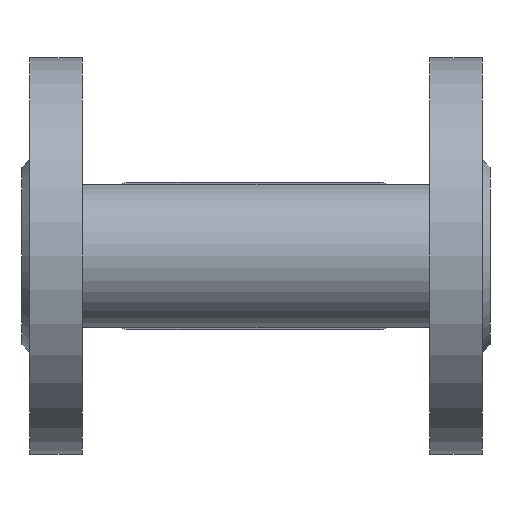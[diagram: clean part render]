
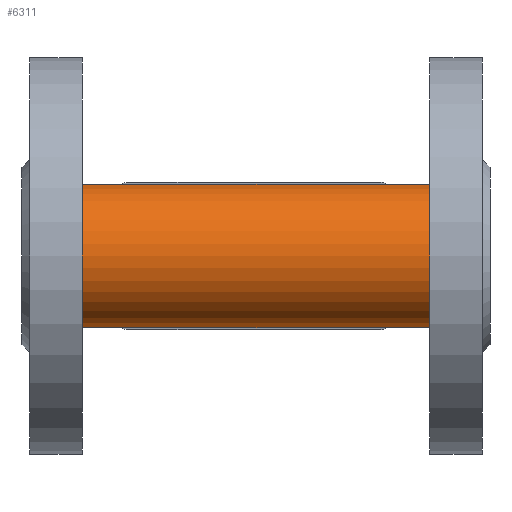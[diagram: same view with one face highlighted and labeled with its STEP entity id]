
A CAD part, front view. The second image highlights one B-rep face of the part: STEP entity #6311.
In plain terms, the highlighted cylindrical face has radius 19 mm (diameter 38 mm), a full revolution.
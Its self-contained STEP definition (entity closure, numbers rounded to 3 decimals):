
#1928=ELLIPSE('',#30327,26.87,19.);
#1929=ELLIPSE('',#30328,26.87,19.);
#1930=ELLIPSE('',#30329,26.87,19.);
#1931=ELLIPSE('',#30330,26.87,19.);
#2276=CYLINDRICAL_SURFACE('',#30333,19.);
#3582=FACE_BOUND('',#10591,.T.);
#3583=FACE_BOUND('',#10592,.T.);
#3584=FACE_BOUND('',#10593,.T.);
#4616=CIRCLE('',#30331,19.);
#4617=CIRCLE('',#30332,19.);
#6311=ADVANCED_FACE('',(#3582,#3583,#3584),#2276,.T.);
#10591=EDGE_LOOP('',(#17813,#17814,#17815,#17816,#17817,#17818));
#10592=EDGE_LOOP('',(#17819));
#10593=EDGE_LOOP('',(#17820));
#17813=ORIENTED_EDGE('',*,*,#23964,.T.);
#17814=ORIENTED_EDGE('',*,*,#23965,.T.);
#17815=ORIENTED_EDGE('',*,*,#23966,.T.);
#17816=ORIENTED_EDGE('',*,*,#23967,.T.);
#17817=ORIENTED_EDGE('',*,*,#23968,.T.);
#17818=ORIENTED_EDGE('',*,*,#23969,.T.);
#17819=ORIENTED_EDGE('',*,*,#23970,.F.);
#17820=ORIENTED_EDGE('',*,*,#23971,.F.);
#20347=VERTEX_POINT('',#54120);
#20348=VERTEX_POINT('',#54121);
#20349=VERTEX_POINT('',#54123);
#20350=VERTEX_POINT('',#54125);
#20351=VERTEX_POINT('',#54127);
#20352=VERTEX_POINT('',#54129);
#20353=VERTEX_POINT('',#54132);
#20354=VERTEX_POINT('',#54134);
#23964=EDGE_CURVE('',#20347,#20348,#1928,.T.);
#23965=EDGE_CURVE('',#20348,#20349,#1929,.T.);
#23966=EDGE_CURVE('',#20349,#20350,#25819,.T.);
#23967=EDGE_CURVE('',#20350,#20351,#1930,.T.);
#23968=EDGE_CURVE('',#20351,#20352,#1931,.T.);
#23969=EDGE_CURVE('',#20352,#20347,#25820,.T.);
#23970=EDGE_CURVE('',#20353,#20353,#4616,.T.);
#23971=EDGE_CURVE('',#20354,#20354,#4617,.T.);
#25819=LINE('',#54124,#27900);
#25820=LINE('',#54130,#27901);
#27900=VECTOR('',#37282,1.);
#27901=VECTOR('',#37287,1.);
#30327=AXIS2_PLACEMENT_3D('',#54119,#37278,#37279);
#30328=AXIS2_PLACEMENT_3D('',#54122,#37280,#37281);
#30329=AXIS2_PLACEMENT_3D('',#54126,#37283,#37284);
#30330=AXIS2_PLACEMENT_3D('',#54128,#37285,#37286);
#30331=AXIS2_PLACEMENT_3D('',#54131,#37288,#37289);
#30332=AXIS2_PLACEMENT_3D('',#54133,#37290,#37291);
#30333=AXIS2_PLACEMENT_3D('',#54135,#37292,#37293);
#37278=DIRECTION('',(-0.707,-0.707,0.));
#37279=DIRECTION('',(-0.707,0.707,0.));
#37280=DIRECTION('',(-0.707,-0.707,0.));
#37281=DIRECTION('',(-0.707,0.707,0.));
#37282=DIRECTION('',(1.,0.,0.));
#37283=DIRECTION('',(0.707,-0.707,0.));
#37284=DIRECTION('',(-0.707,-0.707,0.));
#37285=DIRECTION('',(0.707,-0.707,0.));
#37286=DIRECTION('',(-0.707,-0.707,0.));
#37287=DIRECTION('',(-1.,0.,0.));
#37288=DIRECTION('',(1.,0.,0.));
#37289=DIRECTION('',(0.,0.,1.));
#37290=DIRECTION('',(-1.,0.,0.));
#37291=DIRECTION('',(0.,0.,-1.));
#37292=DIRECTION('',(-1.,0.,0.));
#37293=DIRECTION('',(0.,0.,1.));
#54119=CARTESIAN_POINT('',(35.,-12.49,780.5));
#54120=CARTESIAN_POINT('',(20.,2.51,792.162));
#54121=CARTESIAN_POINT('',(16.,6.51,780.5));
#54122=CARTESIAN_POINT('',(35.,-12.49,780.5));
#54123=CARTESIAN_POINT('',(20.,2.51,768.838));
#54124=CARTESIAN_POINT('',(76.,2.51,768.838));
#54125=CARTESIAN_POINT('',(70.,2.51,768.838));
#54126=CARTESIAN_POINT('',(55.,-12.49,780.5));
#54127=CARTESIAN_POINT('',(74.,6.51,780.5));
#54128=CARTESIAN_POINT('',(55.,-12.49,780.5));
#54129=CARTESIAN_POINT('',(70.,2.51,792.162));
#54130=CARTESIAN_POINT('',(76.,2.51,792.162));
#54131=CARTESIAN_POINT('',(93.,-12.49,780.5));
#54132=CARTESIAN_POINT('',(93.,-12.49,799.5));
#54133=CARTESIAN_POINT('',(-3.,-12.49,780.5));
#54134=CARTESIAN_POINT('',(-3.,-12.49,761.5));
#54135=CARTESIAN_POINT('',(76.,-12.49,780.5));
